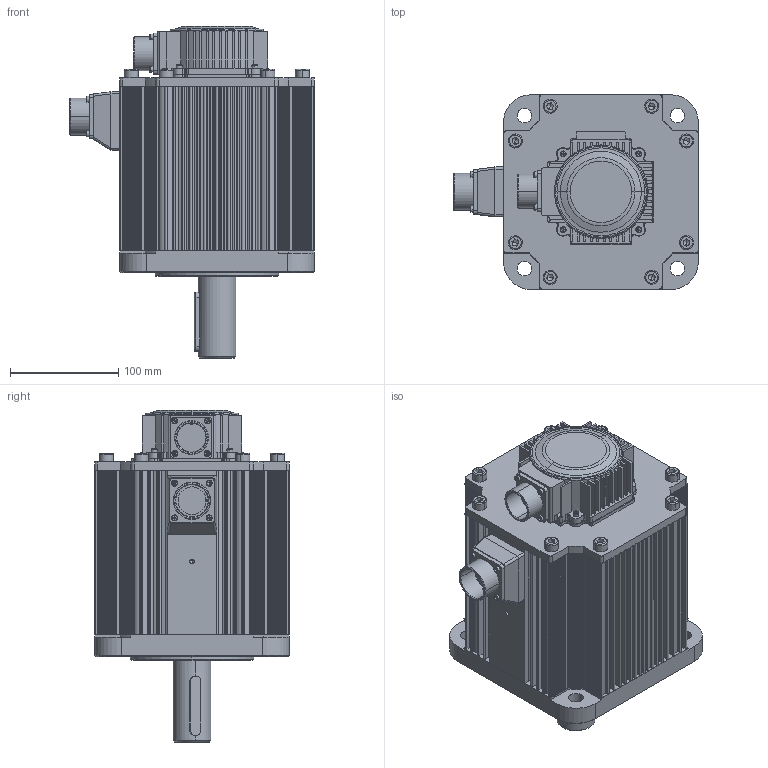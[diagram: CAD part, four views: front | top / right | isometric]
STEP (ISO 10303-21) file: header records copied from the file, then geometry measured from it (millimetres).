
FILE_DESCRIPTION (( 'STEP AP214' ), '1' );
FILE_NAME ('EMG-30.STEP', '2020-03-30T10:32:41', ( '' ), ( '' ), 'SwSTEP 2.0', 'SolidWorks 2018', '' );
FILE_SCHEMA (( 'AUTOMOTIVE_DESIGN' ));
Length unit declared in the file: millimetre
Products named in the file (60): 1; 6; hexagon socket head cap screws gb; 2; 5; 4; 3; EMG-30; hexagon socket head cap screws gb_GB_FASTENER_SCREWS_HSHCS M5X16-NHDA; hexagon socket head cap screws gb_GB_FASTENER_SCREWS_HSHCS M3X16-NHDA; hexagon socket head cap screws gb_GB_FASTENER_SCREWS_HSHCS M8X25-NHDA; 12; 13; 11; 10; 9; 7
Assembly tree (44 placements, depth 2):
  6
  hexagon socket head cap screws gb
  5
  hexagon socket head cap screws gb
  3
Bounding box: 226.1 x 180 x 307 mm (x, y, z)
Volume: 4686074.9 mm3; surface area: 623552.2 mm2
Topology: 44 solids, 46 shells, 3459 faces, 9085 edges, 5816 vertices
Faces by surface type: plane 1691, cylinder 1102, bspline 270, cone 262, torus 134
Entity records: 103095 total; most frequent: CARTESIAN_POINT 30576, ORIENTED_EDGE 14802, DIRECTION 13898, EDGE_CURVE 7401, VERTEX_POINT 4859, AXIS2_PLACEMENT_3D 4705, LINE 4488, VECTOR 4488
